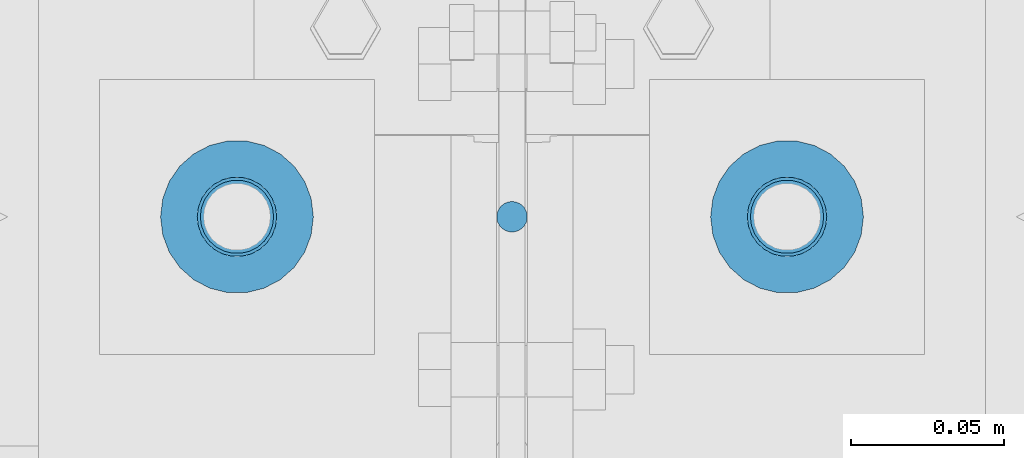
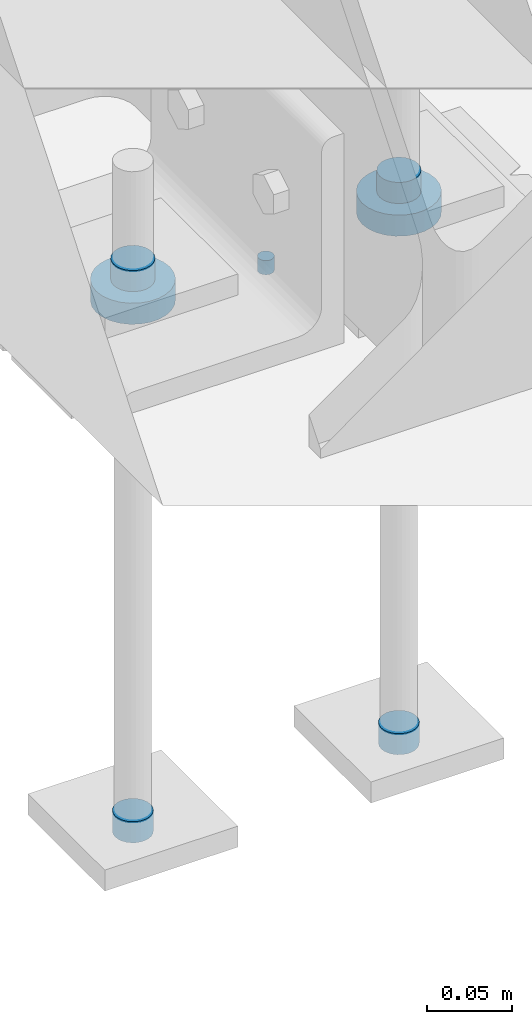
# One storey, part 242 of 362: 7 mechanical fasteners.
"""IFC2X3 building model written with IfcOpenShell, lengths in millimetres."""

from ifc_helpers import new_model, si_unit, frame, origin_with_axes, origin_2d_with_axis, place, context, subcontext, project, spatial, circle, extrude, source, transform, mapped, material, type_object, element, save


model = new_model("IFC2X3")

# Units and contexts
model_context = context("Model", 3, precision=1e-05, world=origin_with_axes())
body_context = subcontext(model_context, "Body", "Model", "MODEL_VIEW")
ifc_project = project(units=[si_unit("LENGTHUNIT", "METRE", prefix="MILLI"), si_unit("AREAUNIT", "SQUARE_METRE"), si_unit("VOLUMEUNIT", "CUBIC_METRE"), si_unit("MASSUNIT", "GRAM", prefix="KILO"), si_unit("TIMEUNIT", "SECOND"), si_unit("PLANEANGLEUNIT", "RADIAN"), si_unit("SOLIDANGLEUNIT", "STERADIAN"), si_unit("THERMODYNAMICTEMPERATUREUNIT", "DEGREE_CELSIUS"), si_unit("LUMINOUSINTENSITYUNIT", "LUMEN")], contexts=[model_context])

# Site, building, storey
site_placement = place(None, origin_with_axes())
site = spatial("IfcSite", under=ifc_project, at=site_placement, Name="Undefined", CompositionType="ELEMENT")
building_placement = place(site_placement, origin_with_axes())
building = spatial("IfcBuilding", under=site, at=building_placement, Name="Undefined", CompositionType="ELEMENT")
storey_placement = place(building_placement, origin_with_axes())
storey = spatial("IfcBuildingStorey", under=building, at=storey_placement, Name="Undefined", CompositionType="ELEMENT", Elevation=0.0)

# Mechanical fasteners
ifc_material = material(Name="6.8")
mechanical_fastener_type = type_object("IfcMechanicalFastenerType", Name="Bolt assembly")
shared_shape_1 = source(origin_with_axes(), body_context, "Body", "SweptSolid", [
    extrude(circle(Radius=25.0, at=origin_2d_with_axis()), frame((0.0, -14.999999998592, 0.0), z_axis=(0.0, 1.0, 0.0), x_axis=(1.0, 0.0, 0.0)), (0.0, 0.0, 1.0), 15.1),
])
for number, where, z_axis, x_axis, name in (
    (1, (-90.0028489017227, 15110.0000024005, -199.999999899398), (0.0, 1.0, 0.0), (1.0, 0.0, 0.0), "Bolt assembly"),
    (2, (89.9971510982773, 15110.0000024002, -199.999999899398), (0.0, -1.0, 0.0), (-1.0, 0.0, 0.0), "Bolt assembly"),
):
    element("IfcMechanicalFastener", number, at=place(storey_placement, frame(where, z_axis=z_axis, x_axis=x_axis)), inside=storey, type_object=mechanical_fastener_type, material=ifc_material, Name=name, NominalDiameter=30.0, NominalLength=15.0, context=body_context, shape_type="MappedRepresentation", body=[
        mapped(shared_shape_1, transform((0.0, 0.0, 0.0))),
    ])
shared_shape_2 = source(origin_with_axes(), body_context, "Body", "SweptSolid", [
    extrude(circle(Radius=13.0, at=origin_2d_with_axis()), frame((0.0, -14.999999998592, 0.0), z_axis=(0.0, 1.0, 0.0), x_axis=(1.0, 0.0, 0.0)), (0.0, 0.0, 1.0), 15.1),
])
for number, where, z_axis, x_axis, name in (
    (3, (-90.0028495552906, 15109.9999996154, -185.0), (0.0, -1.0, 0.0), (-1.0, 0.0, 0.0), "Bolt assembly"),
    (4, (89.9971504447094, 15109.9999996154, -185.0), (0.0, -1.0, 0.0), (-1.0, 0.0, 0.0), "Bolt assembly"),
):
    element("IfcMechanicalFastener", number, at=place(storey_placement, frame(where, z_axis=z_axis, x_axis=x_axis)), inside=storey, type_object=mechanical_fastener_type, material=ifc_material, Name=name, NominalDiameter=24.0, NominalLength=15.0, context=body_context, shape_type="MappedRepresentation", body=[
        mapped(shared_shape_2, transform((0.0, 0.0, 0.0))),
    ])
shared_shape_3 = source(origin_with_axes(), body_context, "Body", "SweptSolid", [
    extrude(circle(Radius=12.0, at=origin_2d_with_axis()), frame((0.0, -14.999999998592, 0.0), z_axis=(0.0, 1.0, 0.0), x_axis=(1.0, 0.0, 0.0)), (0.0, 0.0, 1.0), 15.1),
])
for number, where, z_axis, x_axis, name in (
    (5, (-90.0028495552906, 15109.9999996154, -580.0), (0.0, -1.0, 0.0), (-1.0, 0.0, 0.0), "Bolt assembly"),
    (6, (89.9971504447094, 15109.9999996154, -580.0), (0.0, -1.0, 0.0), (-1.0, 0.0, 0.0), "Bolt assembly"),
):
    element("IfcMechanicalFastener", number, at=place(storey_placement, frame(where, z_axis=z_axis, x_axis=x_axis)), inside=storey, type_object=mechanical_fastener_type, material=ifc_material, Name=name, NominalDiameter=22.0, NominalLength=15.0, context=body_context, shape_type="MappedRepresentation", body=[
        mapped(shared_shape_3, transform((0.0, 0.0, 0.0))),
    ])
shared_shape_4 = source(origin_with_axes(), body_context, "Body", "SweptSolid", [
    extrude(circle(Radius=5.0, at=origin_2d_with_axis()), frame((0.0, 0.0, 0.0), z_axis=(0.0, 1.0, 0.0), x_axis=(1.0, 0.0, 0.0)), (0.0, 0.0, 1.0), 10.1),
])
mechanical_fastener_placement = place(storey_placement, frame((7.3411058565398e-08, 15109.9999996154, -200.0), z_axis=(1.0, 0.0, 0.0), x_axis=(0.0, -1.0, 0.0)))
element("IfcMechanicalFastener", 7, at=mechanical_fastener_placement, inside=storey, type_object=mechanical_fastener_type, material=ifc_material, Name="Bolt assembly", NominalDiameter=8.0, NominalLength=10.0, context=body_context, shape_type="MappedRepresentation", body=[
    mapped(shared_shape_4, transform((0.0, 0.0, 0.0))),
])

save(model, "model.ifc")
